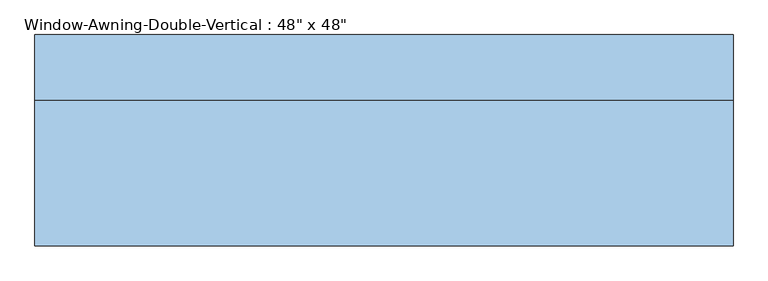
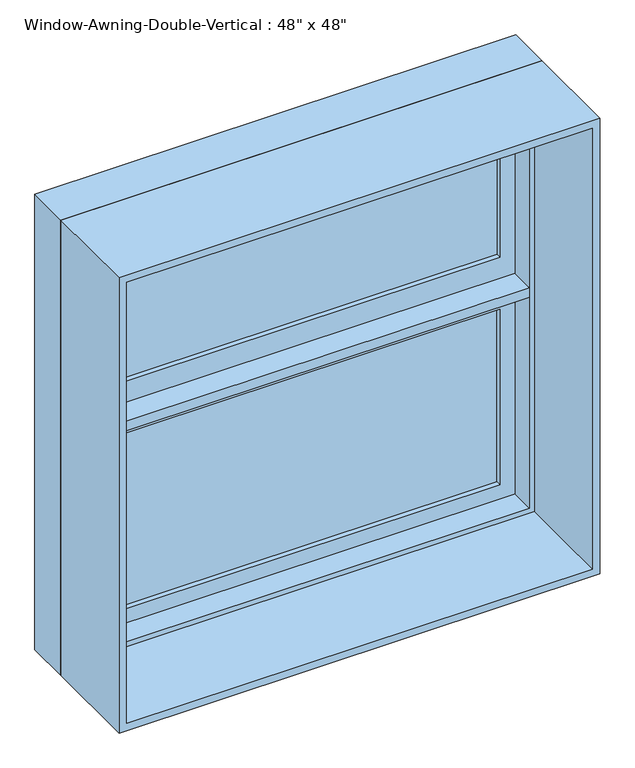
"""IFC4 building model written with IfcOpenShell, lengths in millimetres: window geometry."""

from ifc_helpers import new_model, si_unit, frame, origin, place, context, project, spatial, polyline, outline, extrude, faceted_brep, source, transform, mapped, element, save


def window_4464fd46(model_context):
    return source(origin(), model_context, "Body", "SolidModel", [
        extrude(outline(polyline([(927.1, 596.9), (1511.3, 596.9), (1511.3, -596.9), (927.1, -596.9), (927.1, 596.9)]), holes=[polyline([(984.25, -539.75), (1454.15, -539.75), (1454.15, 539.75), (984.25, 539.75), (984.25, -539.75)])]), frame((0.0, 143.25, 0.0), z_axis=(0.0, 1.0, 0.0), x_axis=(0.0, 0.0, 1.0)), (0.0, 0.0, 1.0), 44.45),
        extrude(outline(polyline([(-596.9, 143.25), (-596.9, 194.05), (596.9, 194.05), (596.9, 143.25), (577.85, 143.25), (577.85, 79.75), (-577.85, 79.75), (-577.85, 143.25), (-596.9, 143.25)])), frame((0.0, 0.0, 1511.3), z_axis=(0.0, 0.0, 1.0), x_axis=(1.0, 0.0, 0.0)), (0.0, 0.0, 1.0), 25.4),
        extrude(outline(polyline([(539.75, 175.0), (539.75, 168.65), (-539.75, 168.65), (-539.75, 175.0), (539.75, 175.0)])), frame((0.0, 0.0, 984.25), z_axis=(0.0, 0.0, 1.0), x_axis=(1.0, 0.0, 0.0)), (0.0, 0.0, 1.0), 469.9),
        extrude(outline(polyline([(539.75, 162.3), (539.75, 155.95), (-539.75, 155.95), (-539.75, 162.3), (539.75, 162.3)])), frame((0.0, 0.0, 984.25), z_axis=(0.0, 0.0, 1.0), x_axis=(1.0, 0.0, 0.0)), (0.0, 0.0, 1.0), 469.9),
        extrude(outline(polyline([(539.75, 175.0), (539.75, 168.65), (-539.75, 168.65), (-539.75, 175.0), (539.75, 175.0)])), frame((0.0, 0.0, 1593.85), z_axis=(0.0, 0.0, 1.0), x_axis=(1.0, 0.0, 0.0)), (0.0, 0.0, 1.0), 469.9),
        extrude(outline(polyline([(539.75, 162.3), (539.75, 155.95), (-539.75, 155.95), (-539.75, 162.3), (539.75, 162.3)])), frame((0.0, 0.0, 1593.85), z_axis=(0.0, 0.0, 1.0), x_axis=(1.0, 0.0, 0.0)), (0.0, 0.0, 1.0), 469.9),
        extrude(outline(polyline([(1536.7, -596.9), (1536.7, 596.9), (2120.9, 596.9), (2120.9, -596.9), (1536.7, -596.9)]), holes=[polyline([(2063.75, -539.75), (2063.75, 539.75), (1593.85, 539.75), (1593.85, -539.75), (2063.75, -539.75)])]), frame((0.0, 143.25, 0.0), z_axis=(0.0, 1.0, 0.0), x_axis=(0.0, 0.0, 1.0)), (0.0, 0.0, 1.0), 44.45),
        faceted_brep([(-609.6, 79.75, 2133.6), (-609.6, 194.05, 2133.6), (-609.6, 194.05, 914.4), (-609.6, 79.75, 914.4), (-596.9, 194.05, 2120.9), (-596.9, 143.25, 2120.9), (-596.9, 143.25, 927.1), (-596.9, 194.05, 927.1), (-577.85, 143.25, 2101.85), (-577.85, 79.75, 2101.85), (-577.85, 79.75, 946.15), (-577.85, 143.25, 946.15), (609.6, 194.05, 914.4), (609.6, 79.75, 914.4), (596.9, 143.25, 927.1), (596.9, 194.05, 927.1), (577.85, 79.75, 946.15), (577.85, 143.25, 946.15), (609.6, 194.05, 2133.6), (609.6, 79.75, 2133.6), (596.9, 143.25, 2120.9), (596.9, 194.05, 2120.9), (577.85, 79.75, 2101.85), (577.85, 143.25, 2101.85)], [[[0, 1, 2, 3]], [[4, 5, 6, 7]], [[8, 9, 10, 11]], [[3, 2, 12, 13]], [[7, 6, 14, 15]], [[11, 10, 16, 17]], [[13, 12, 18, 19]], [[15, 14, 20, 21]], [[17, 16, 22, 23]], [[3, 13, 19, 0], [9, 22, 16, 10]], [[19, 18, 1, 0]], [[1, 18, 12, 2], [7, 15, 21, 4]], [[21, 20, 5, 4]], [[5, 20, 14, 6], [11, 17, 23, 8]], [[23, 22, 9, 8]]]),
        extrude(outline(polyline([(2133.6, -609.6), (914.4, -609.6), (914.4, 609.6), (2133.6, 609.6), (2133.6, -609.6)]), holes=[polyline([(2114.55, -590.55), (2114.55, 590.55), (933.45, 590.55), (933.45, -590.55), (2114.55, -590.55)])]), frame((0.0, -175.0, 0.0), z_axis=(0.0, 1.0, 0.0), x_axis=(0.0, 0.0, 1.0)), (0.0, 0.0, 1.0), 254.75),
    ])


if __name__ == "__main__":
    model = new_model("IFC4")
    model_context = context("Model", 3, world=origin())
    ifc_project = project(units=[si_unit("LENGTHUNIT", "METRE", prefix="MILLI")], contexts=[model_context])
    site = spatial("IfcSite", under=ifc_project)
    building = spatial("IfcBuilding", under=site)
    placement = place(None, origin())
    window_shape = window_4464fd46(model_context)
    element("IfcWindow", 1, ObjectType="Window-Awning-Double-Vertical : 48\" x 48\"", at=placement, inside=building, context=model_context, shape_type="MappedRepresentation", body=[
        mapped(window_shape, transform((0.0, 0.0, 0.0), x_axis=(1.0, 0.0, 0.0), y_axis=(0.0, 1.0, 0.0), z_axis=(0.0, 0.0, 1.0))),
    ])
    save(model, "model.ifc")
